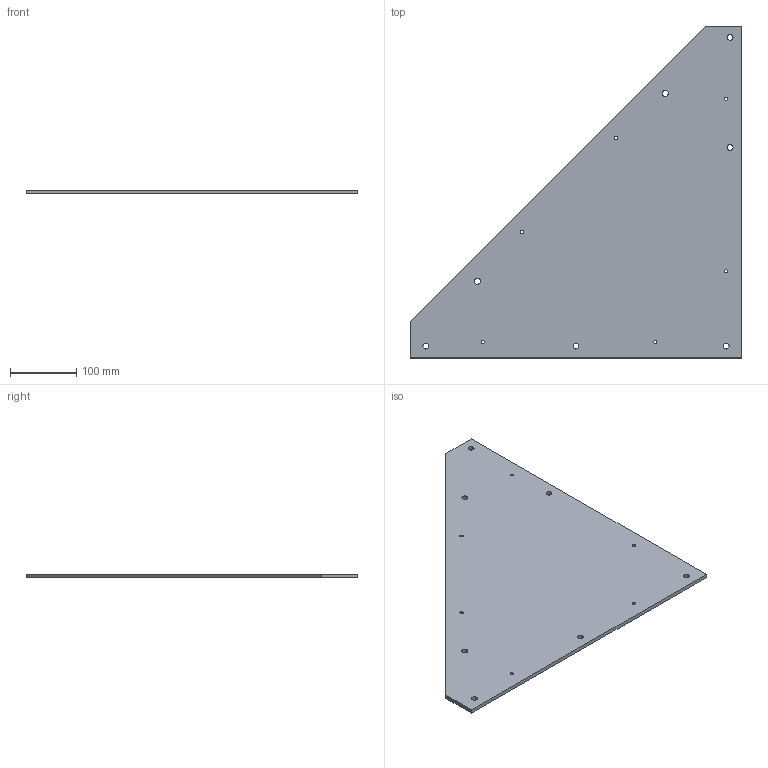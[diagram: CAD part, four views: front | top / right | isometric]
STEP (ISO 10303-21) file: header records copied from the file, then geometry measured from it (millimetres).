
FILE_DESCRIPTION (( 'STEP AP203' ), '1' );
FILE_NAME ('Base_Coté.STEP', '2026-06-24T07:29:49', ( '' ), ( '' ), 'SwSTEP 2.0', 'SolidWorks 2024', '' );
FILE_SCHEMA (( 'CONFIG_CONTROL_DESIGN' ));
Length unit declared in the file: millimetre
Products named in the file (1): Base_Coté_GaucheTrouSuppl
Bounding box: 500 x 500 x 6 mm (x, y, z)
Volume: 902307.5 mm3; surface area: 312958.5 mm2
Topology: 1 solids, 1 shells, 26 faces, 72 edges, 48 vertices
Faces by surface type: cylinder 13, plane 7, cone 6
Full cylindrical faces by diameter (mm): 5 x6, 9 x7
Entity records: 826 total; most frequent: DIRECTION 133, CARTESIAN_POINT 116, ORIENTED_EDGE 94, EDGE_LOOP 71, AXIS2_PLACEMENT_3D 59, EDGE_CURVE 47, VERTEX_POINT 42, FACE_OUTER_BOUND 39
